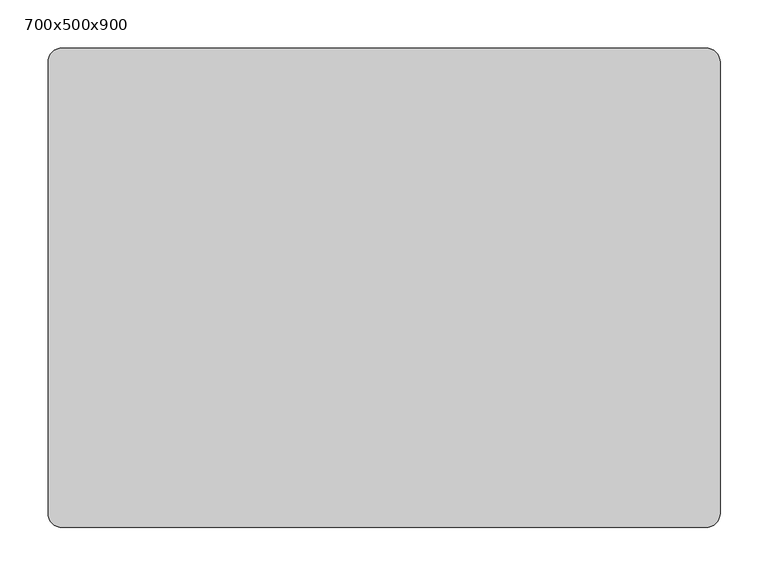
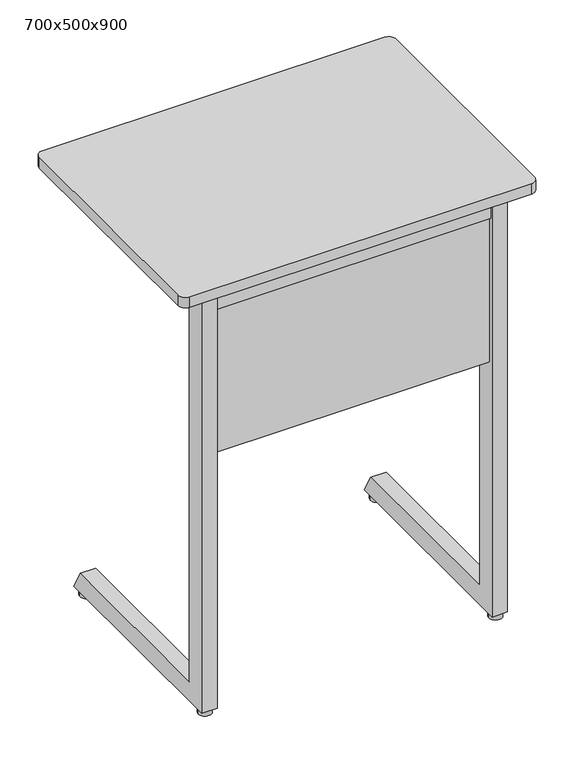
"""IFC4 building model written with IfcOpenShell, lengths in millimetres: furniture geometry, Trivia Light : 700x500x900."""

from ifc_helpers import new_model, si_unit, point, frame, frame_2d, origin, origin_with_axes, place, context, project, spatial, polyline, circle_curve, trimmed, segment, composite_curve, outline, extrude, source, transform, mapped, element, save


def furniture_700x500x900_84bb795d(model_context):
    return source(origin(), model_context, "Body", "SweptSolid", [
        extrude(outline(polyline([(434.5100173, 878.0), (419.9996059, 846.4981092), (54.0, 846.4977978), (54.0, 878.0), (434.5100173, 878.0)])), frame((-214.7535601, 0.0, 0.0), z_axis=(1.0, 0.0, 0.0), x_axis=(0.0, 1.0, 0.0)), (0.0, 0.0, 1.0), 30.0),
        extrude(outline(polyline([(873.7997437, -217.7502136), (850.730957, -217.7502136), (850.730957, -249.8065042), (855.0394353, -261.6439509), (852.2203574, -262.6700113), (847.730957, -250.3354852), (847.730957, -214.7502136), (873.7997437, -214.7502136), (873.7997437, -217.7502136)])), frame((0.0, 215.0, 0.0), z_axis=(0.0, 1.0, 0.0), x_axis=(0.0, 0.0, 1.0)), (0.0, 0.0, 1.0), 30.0),
        extrude(outline(polyline([(873.7997437, 217.7535601), (873.7997437, 214.7535601), (847.730957, 214.7535601), (847.730957, 250.3388316), (852.2203574, 262.6733577), (855.0394353, 261.6472973), (850.730957, 249.8098507), (850.730957, 217.7535601), (873.7997437, 217.7535601)])), frame((0.0, 215.0, 0.0), z_axis=(0.0, 1.0, 0.0), x_axis=(0.0, 0.0, 1.0)), (0.0, 0.0, 1.0), 30.0),
        extrude(outline(composite_curve([segment(trimmed(circle_curve(frame_2d((-285.0, 35.0)), 13.0), [point((-298.0, 35.0))], [point((-272.0, 35.0))], False, "CARTESIAN"), True, "CONTINUOUS"), segment(trimmed(circle_curve(frame_2d((-285.0, 35.0)), 13.0), [point((-272.0, 35.0))], [point((-298.0, 35.0))], False, "CARTESIAN"), True, "CONTINUOUS")], self_intersect=False)), origin_with_axes(), (0.0, 0.0, 1.0), 13.0905762),
        extrude(outline(composite_curve([segment(trimmed(circle_curve(frame_2d((285.0, 35.0)), 13.0), [point((272.0, 35.0))], [point((298.0, 35.0))], False, "CARTESIAN"), True, "CONTINUOUS"), segment(trimmed(circle_curve(frame_2d((285.0, 35.0)), 13.0), [point((298.0, 35.0))], [point((272.0, 35.0))], False, "CARTESIAN"), True, "CONTINUOUS")], self_intersect=False)), origin_with_axes(), (0.0, 0.0, 1.0), 13.0905762),
        extrude(outline(composite_curve([segment(trimmed(circle_curve(frame_2d((285.0, 437.5)), 13.0), [point((272.0, 437.5))], [point((298.0, 437.5))], False, "CARTESIAN"), True, "CONTINUOUS"), segment(trimmed(circle_curve(frame_2d((285.0, 437.5)), 13.0), [point((298.0, 437.5))], [point((272.0, 437.5))], False, "CARTESIAN"), True, "CONTINUOUS")], self_intersect=False)), origin_with_axes(), (0.0, 0.0, 1.0), 13.0905762),
        extrude(outline(composite_curve([segment(trimmed(circle_curve(frame_2d((-285.0, 437.5)), 13.0), [point((-298.0, 437.5))], [point((-272.0, 437.5))], False, "CARTESIAN"), True, "CONTINUOUS"), segment(trimmed(circle_curve(frame_2d((-285.0, 437.5)), 13.0), [point((-272.0, 437.5))], [point((-298.0, 437.5))], False, "CARTESIAN"), True, "CONTINUOUS")], self_intersect=False)), origin_with_axes(), (0.0, 0.0, 1.0), 13.0905762),
        extrude(outline(polyline([(434.5100173, 878.0), (419.9996059, 846.4981092), (54.0, 846.4977978), (54.0, 878.0), (434.5100173, 878.0)])), frame((184.7535601, 0.0, 0.0), z_axis=(1.0, 0.0, 0.0), x_axis=(0.0, 1.0, 0.0)), (0.0, 0.0, 1.0), 30.0),
        extrude(outline(composite_curve([segment(trimmed(circle_curve(frame_2d((335.0, 485.0)), 15.0), [point((335.0, 500.0))], [point((350.0, 485.0))], False, "CARTESIAN"), True, "CONTINUOUS"), segment(polyline([(350.0, 485.0), (350.0, 15.0)]), True, "CONTINUOUS"), segment(trimmed(circle_curve(frame_2d((335.0, 15.0)), 15.0), [point((350.0, 15.0))], [point((335.0, 0.0))], False, "CARTESIAN"), True, "CONTINUOUS"), segment(polyline([(335.0, 0.0), (-335.0, 0.0)]), True, "CONTINUOUS"), segment(trimmed(circle_curve(frame_2d((-335.0, 15.0)), 15.0), [point((-335.0, 0.0))], [point((-350.0, 15.0))], False, "CARTESIAN"), True, "CONTINUOUS"), segment(polyline([(-350.0, 15.0), (-350.0, 485.0)]), True, "CONTINUOUS"), segment(trimmed(circle_curve(frame_2d((-335.0, 485.0)), 15.0), [point((-350.0, 485.0))], [point((-335.0, 500.0))], False, "CARTESIAN"), True, "CONTINUOUS"), segment(polyline([(-335.0, 500.0), (335.0, 500.0)]), True, "CONTINUOUS")], self_intersect=False)), frame((0.0, 0.0, 878.0), z_axis=(0.0, 0.0, 1.0), x_axis=(1.0, 0.0, 0.0)), (0.0, 0.0, 1.0), 22.0),
        extrude(outline(polyline([(269.7534307, 54.0), (269.7534307, 24.0), (-269.7534307, 24.0), (-269.7534307, 54.0), (269.7534307, 54.0)])), frame((0.0, 0.0, 836.0), z_axis=(0.0, 0.0, 1.0), x_axis=(1.0, 0.0, 0.0)), (0.0, 0.0, 1.0), 42.0),
        extrude(outline(polyline([(62.0, 51.5905762), (432.1448423, 51.5905762), (454.8944033, 11.5905762), (20.0, 11.5905762), (20.0, 878.0), (62.0, 878.0), (62.0, 51.5905762)])), frame((-299.7535601, 0.0, 0.0), z_axis=(1.0, 0.0, 0.0), x_axis=(0.0, 1.0, 0.0)), (0.0, 0.0, 1.0), 30.0001294),
        extrude(outline(polyline([(62.0, 51.5905762), (432.1448423, 51.5905762), (454.8944033, 11.5905762), (20.0, 11.5905762), (20.0, 878.0), (62.0, 878.0), (62.0, 51.5905762)])), frame((269.7534307, 0.0, 0.0), z_axis=(1.0, 0.0, 0.0), x_axis=(0.0, 1.0, 0.0)), (0.0, 0.0, 1.0), 30.0001294),
        extrude(outline(polyline([(269.7534307, 45.9187166), (269.7534307, 27.9321552), (-269.7534307, 27.9321552), (-269.7534307, 45.9187166), (269.7534307, 45.9187166)])), frame((0.0, 0.0, 536.5950628), z_axis=(0.0, 0.0, 1.0), x_axis=(1.0, 0.0, 0.0)), (0.0, 0.0, 1.0), 299.4049372),
    ])


if __name__ == "__main__":
    model = new_model("IFC4")
    model_context = context("Model", 3, world=origin())
    ifc_project = project(units=[si_unit("LENGTHUNIT", "METRE", prefix="MILLI")], contexts=[model_context])
    site = spatial("IfcSite", under=ifc_project)
    building = spatial("IfcBuilding", under=site)
    placement = place(None, origin())
    furniture_700x500x900_shape = furniture_700x500x900_84bb795d(model_context)
    element("IfcFurniture", 1, ObjectType="Trivia Light : 700x500x900", at=placement, inside=building, context=model_context, shape_type="MappedRepresentation", body=[
        mapped(furniture_700x500x900_shape, transform((0.0, 0.0, 0.0), x_axis=(1.0, 0.0, 0.0), y_axis=(0.0, 1.0, 0.0), z_axis=(0.0, 0.0, 1.0))),
    ])
    save(model, "model.ifc")
